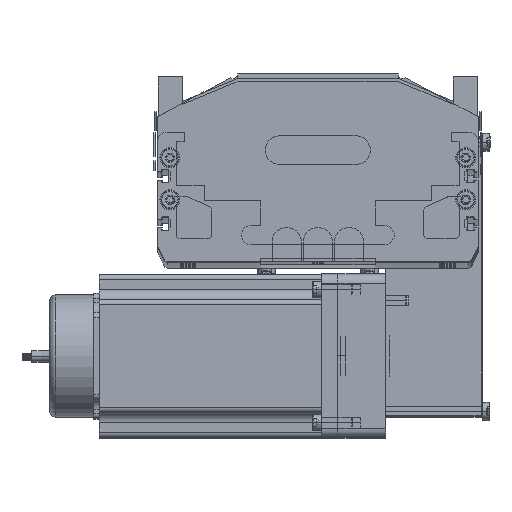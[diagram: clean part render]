
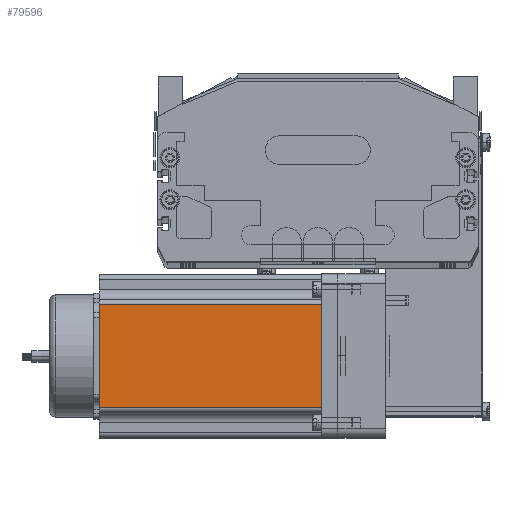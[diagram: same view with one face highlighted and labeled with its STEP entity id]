
A CAD part, top view. The second image highlights one B-rep face of the part: STEP entity #79596.
In plain terms, the highlighted planar face has unit normal (0, 0, 1) as drawn and (0, -1, 0) by its records, which use the part's own axes.
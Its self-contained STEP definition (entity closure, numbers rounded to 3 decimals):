
#20698 = CARTESIAN_POINT ( 'NONE',  ( 0., 0., 0. ) ) ;
#20699 = LINE ( 'NONE', #20698, #20747 ) ;
#20746 = DIRECTION ( 'NONE',  ( 1., 0., 0. ) ) ;
#20747 = VECTOR ( 'NONE', #20746, 1000. ) ;
#20782 = CARTESIAN_POINT ( 'NONE',  ( 16.16, 0., 0. ) ) ;
#20817 = FACE_OUTER_BOUND ( 'NONE', #79618, .T. ) ;
#20823 = CARTESIAN_POINT ( 'NONE',  ( 69.74, 0., 0. ) ) ;
#20833 = PLANE ( 'NONE',  #20880 ) ;
#20843 = LINE ( 'NONE', #20876, #20856 ) ;
#20851 = DIRECTION ( 'NONE',  ( 0., 0., -1. ) ) ;
#20852 = VECTOR ( 'NONE', #20851, 1000. ) ;
#20853 = CARTESIAN_POINT ( 'NONE',  ( 16.16, 0., 116.5 ) ) ;
#20854 = LINE ( 'NONE', #20853, #20852 ) ;
#20856 = VECTOR ( 'NONE', #20875, 1000. ) ;
#20857 = CARTESIAN_POINT ( 'NONE',  ( 16.16, 0., 116.5 ) ) ;
#20870 = DIRECTION ( 'NONE',  ( 0., 0., 1. ) ) ;
#20871 = VECTOR ( 'NONE', #20870, 1000. ) ;
#20872 = CARTESIAN_POINT ( 'NONE',  ( 69.74, 0., 116.5 ) ) ;
#20873 = LINE ( 'NONE', #20872, #20871 ) ;
#20874 = CARTESIAN_POINT ( 'NONE',  ( 69.74, 0., 116.5 ) ) ;
#20875 = DIRECTION ( 'NONE',  ( 1., 0., 0. ) ) ;
#20876 = CARTESIAN_POINT ( 'NONE',  ( 0., 0., 116.5 ) ) ;
#20877 = DIRECTION ( 'NONE',  ( 0., 0., 1. ) ) ;
#20878 = DIRECTION ( 'NONE',  ( 0., 1., 0. ) ) ;
#20879 = CARTESIAN_POINT ( 'NONE',  ( 0., 0., 116.5 ) ) ;
#20880 = AXIS2_PLACEMENT_3D ( 'NONE', #20879, #20878, #20877 ) ;
#79546 = EDGE_CURVE ( 'NONE', #79552, #79597, #20699, .T. ) ;
#79552 = VERTEX_POINT ( 'NONE', #20782 ) ;
#79595 = ORIENTED_EDGE ( 'NONE', *, *, #79611, .T. ) ;
#79596 = ADVANCED_FACE ( 'NONE', ( #20817 ), #20833, .F. ) ;
#79597 = VERTEX_POINT ( 'NONE', #20823 ) ;
#79598 = VERTEX_POINT ( 'NONE', #20874 ) ;
#79599 = ORIENTED_EDGE ( 'NONE', *, *, #79601, .T. ) ;
#79600 = ORIENTED_EDGE ( 'NONE', *, *, #79546, .T. ) ;
#79601 = EDGE_CURVE ( 'NONE', #79597, #79598, #20873, .T. ) ;
#79609 = EDGE_CURVE ( 'NONE', #79612, #79598, #20843, .T. ) ;
#79610 = ORIENTED_EDGE ( 'NONE', *, *, #79609, .F. ) ;
#79611 = EDGE_CURVE ( 'NONE', #79612, #79552, #20854, .T. ) ;
#79612 = VERTEX_POINT ( 'NONE', #20857 ) ;
#79618 = EDGE_LOOP ( 'NONE', ( #79600, #79599, #79610, #79595 ) ) ;
